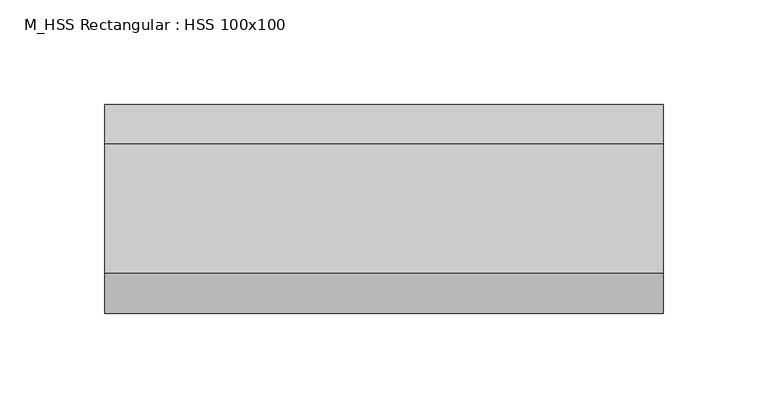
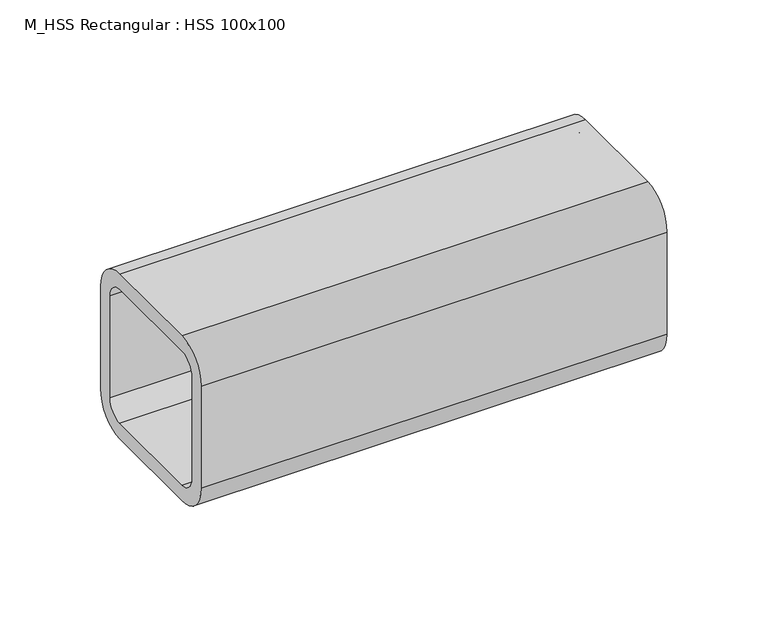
"""IFC4 building model written with IfcOpenShell, lengths in millimetres: beam geometry, M_HSS Rectangular : HSS 100x100."""

from ifc_helpers import new_model, si_unit, point, frame, frame_2d, origin, place, context, project, spatial, polyline, circle_curve, trimmed, segment, composite_curve, outline, extrude, source, transform, mapped, element, save


def m_hss_rectangular_hss_100x100_c4b29c07(model_context):
    return source(origin(), model_context, "Body", "SweptSolid", [
        extrude(outline(composite_curve([segment(trimmed(circle_curve(frame_2d((-30.94, 30.94)), 19.06), [point((-50.0, 30.94))], [point((-30.94, 50.0))], False, "CARTESIAN"), True, "CONTINUOUS"), segment(polyline([(-30.94, 50.0), (30.94, 50.0)]), True, "CONTINUOUS"), segment(trimmed(circle_curve(frame_2d((30.94, 30.94)), 19.06), [point((30.94, 50.0))], [point((50.0, 30.94))], False, "CARTESIAN"), True, "CONTINUOUS"), segment(polyline([(50.0, 30.94), (50.0, -30.94)]), True, "CONTINUOUS"), segment(trimmed(circle_curve(frame_2d((30.94, -30.94)), 19.06), [point((50.0, -30.94))], [point((30.94, -50.0))], False, "CARTESIAN"), True, "CONTINUOUS"), segment(polyline([(30.94, -50.0), (-30.94, -50.0)]), True, "CONTINUOUS"), segment(trimmed(circle_curve(frame_2d((-30.94, -30.94)), 19.06), [point((-30.94, -50.0))], [point((-50.0, -30.94))], False, "CARTESIAN"), True, "CONTINUOUS"), segment(polyline([(-50.0, -30.94), (-50.0, 30.94)]), True, "CONTINUOUS")], self_intersect=False), holes=[composite_curve([segment(polyline([(30.94, 40.47), (-30.94, 40.47)]), True, "CONTINUOUS"), segment(trimmed(circle_curve(frame_2d((-30.94, 30.94)), 9.53), [point((-30.94, 40.47))], [point((-40.47, 30.94))], True, "CARTESIAN"), True, "CONTINUOUS"), segment(polyline([(-40.47, 30.94), (-40.47, -30.94)]), True, "CONTINUOUS"), segment(trimmed(circle_curve(frame_2d((-30.94, -30.94)), 9.53), [point((-40.47, -30.94))], [point((-30.94, -40.47))], True, "CARTESIAN"), True, "CONTINUOUS"), segment(polyline([(-30.94, -40.47), (30.94, -40.47)]), True, "CONTINUOUS"), segment(trimmed(circle_curve(frame_2d((30.94, -30.94)), 9.53), [point((30.94, -40.47))], [point((40.47, -30.94))], True, "CARTESIAN"), True, "CONTINUOUS"), segment(polyline([(40.47, -30.94), (40.47, 30.94)]), True, "CONTINUOUS"), segment(trimmed(circle_curve(frame_2d((30.94, 30.94)), 9.53), [point((40.47, 30.94))], [point((30.94, 40.47))], True, "CARTESIAN"), True, "CONTINUOUS")], self_intersect=False)]), frame((-102.3, 0.0, 0.0), z_axis=(1.0, 0.0, 0.0), x_axis=(0.0, 1.0, 0.0)), (0.0, 0.0, 1.0), 267.3),
    ])


if __name__ == "__main__":
    model = new_model("IFC4")
    model_context = context("Model", 3, world=origin())
    ifc_project = project(units=[si_unit("LENGTHUNIT", "METRE", prefix="MILLI")], contexts=[model_context])
    site = spatial("IfcSite", under=ifc_project)
    building = spatial("IfcBuilding", under=site)
    placement = place(None, origin())
    m_hss_rectangular_hss_100x100_shape = m_hss_rectangular_hss_100x100_c4b29c07(model_context)
    element("IfcBeam", 1, ObjectType="M_HSS Rectangular : HSS 100x100", at=placement, inside=building, context=model_context, shape_type="MappedRepresentation", body=[
        mapped(m_hss_rectangular_hss_100x100_shape, transform((0.0, 0.0, 0.0), x_axis=(1.0, 0.0, 0.0), y_axis=(0.0, 1.0, 0.0), z_axis=(0.0, 0.0, 1.0))),
    ])
    save(model, "model.ifc")
